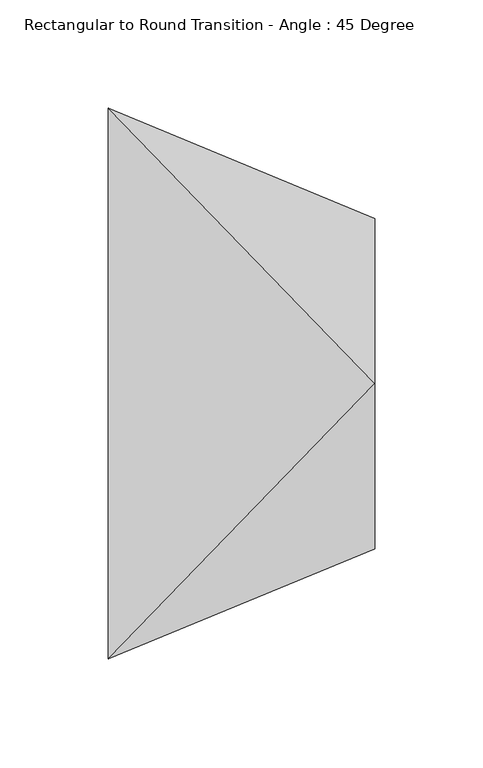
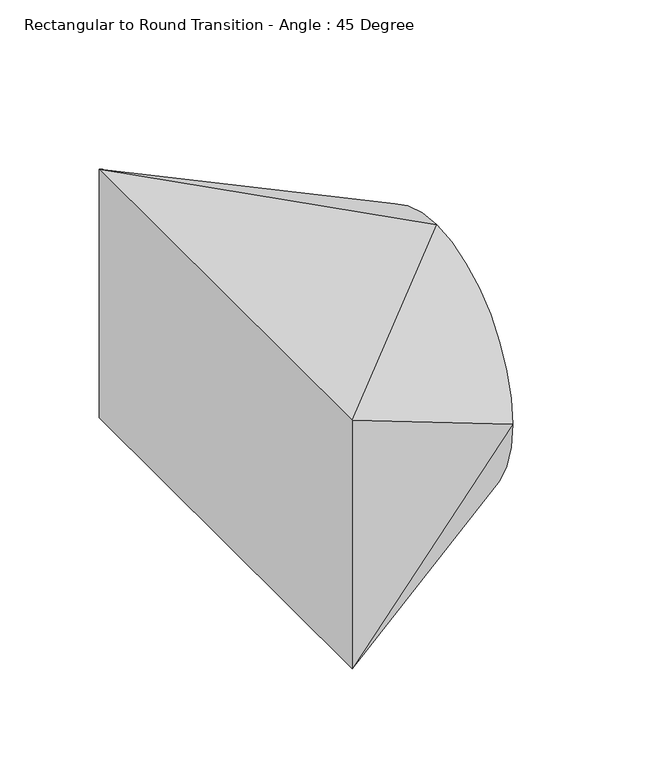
"""IFC4 building model written with IfcOpenShell, lengths in millimetres: duct fitting geometry, Rectangular to Round Transition - Angle : 45 Degree."""

from ifc_helpers import new_model, si_unit, frame, origin, place, context, project, spatial, circle_curve, source, transform, mapped, element, save
from ifc_brep_helpers import plane_surface, spline_surface, advanced_brep


def rectangular_to_round_transition_angle_45_degree_677d3a23(model_context):
    return source(origin(), model_context, "Body", "AdvancedBrep", [
        advanced_brep(
        [(122.642049, 0.0, 76.2), (122.642049, -76.2, 0.0), (122.642049, 0.0, -76.2), (122.642049, 76.2, 0.0), (0.0, -127.0, 76.2), (0.0, 127.0, 76.2), (0.0, 127.0, -76.2), (0.0, -127.0, -76.2)],
        [
            (0, 1, circle_curve(frame((122.642049, 0.0, 0.0), z_axis=(1.0, 0.0, 0.0), x_axis=(0.0, 1.0, 0.0)), 76.2)),
            (1, 2, circle_curve(frame((122.642049, 0.0, 0.0), z_axis=(1.0, 0.0, 0.0), x_axis=(0.0, 1.0, 0.0)), 76.2)),
            (2, 3, circle_curve(frame((122.642049, 0.0, 0.0), z_axis=(1.0, 0.0, 0.0), x_axis=(0.0, 1.0, 0.0)), 76.2)),
            (3, 0, circle_curve(frame((122.642049, 0.0, 0.0), z_axis=(1.0, 0.0, 0.0), x_axis=(0.0, 1.0, 0.0)), 76.2)),
            (4, 5),
            (5, 6),
            (6, 7),
            (7, 4),
            (0, 4),
            (4, 1),
            (7, 1),
            (7, 2),
            (6, 2),
            (6, 3),
            (5, 3),
            (5, 0),
        ],
        [
            plane_surface(frame((122.642049, 0.0, 0.0), z_axis=(1.0, 0.0, 0.0), x_axis=(0.0, 0.0, -1.0))),
            plane_surface(frame((0.0, 0.0, 0.0), z_axis=(-1.0, 0.0, 0.0), x_axis=(0.0, 0.0, -1.0))),
            spline_surface(2, 1, [[(0.0, -127.0, 76.2), (122.642049, 0.0, 76.2)], [(0.0, -127.0, 76.2), (122.642049, -76.2, 76.2)], [(0.0, -127.0, 76.2), (122.642049, -76.2, 0.0)]], [3, 3], [2, 2], [0.0, 1.0], [0.0, 1.0], weights=[[1.0, 1.0], [0.7071067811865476, 0.7071067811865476], [1.0, 1.0]]),
            plane_surface(frame((0.0, -127.0, 0.0), z_axis=(0.3826834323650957, -0.9238795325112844, 0.0), x_axis=(0.0, 0.0, -1.0))),
            spline_surface(2, 1, [[(0.0, -127.0, -76.2), (122.642049, -76.2, 0.0)], [(0.0, -127.0, -76.2), (122.642049, -76.2, -76.2)], [(0.0, -127.0, -76.2), (122.642049, 0.0, -76.2)]], [3, 3], [2, 2], [0.0, 1.0], [0.0, 1.0], weights=[[1.0, 1.0], [0.7071067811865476, 0.7071067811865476], [1.0, 1.0]]),
            plane_surface(frame((0.0, 0.0, -76.2), z_axis=(0.0, 0.0, -1.0), x_axis=(0.0, 1.0, 0.0))),
            spline_surface(2, 1, [[(0.0, 127.0, -76.2), (122.642049, 0.0, -76.2)], [(0.0, 127.0, -76.2), (122.642049, 76.2, -76.2)], [(0.0, 127.0, -76.2), (122.642049, 76.2, 0.0)]], [3, 3], [2, 2], [0.0, 1.0], [0.0, 1.0], weights=[[1.0, 1.0], [0.7071067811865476, 0.7071067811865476], [1.0, 1.0]]),
            plane_surface(frame((0.0, 127.0, 0.0), z_axis=(0.38268343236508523, 0.9238795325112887, 0.0), x_axis=(0.0, 0.0, 1.0))),
            spline_surface(2, 1, [[(0.0, 127.0, 76.2), (122.642049, 76.2, 0.0)], [(0.0, 127.0, 76.2), (122.642049, 76.2, 76.2)], [(0.0, 127.0, 76.2), (122.642049, 0.0, 76.2)]], [3, 3], [2, 2], [0.0, 1.0], [0.0, 1.0], weights=[[1.0, 1.0], [0.7071067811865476, 0.7071067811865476], [1.0, 1.0]]),
            plane_surface(frame((0.0, 0.0, 76.2), z_axis=(0.0, 0.0, 1.0), x_axis=(0.0, -1.0, 0.0))),
        ],
        [
            (0, [[1, 2, 3, 4]]),
            (1, [[5, 6, 7, 8]]),
            (2, [[-1, 9, 10]]),
            (3, [[-8, 11, -10]]),
            (4, [[-2, -11, 12]]),
            (5, [[-7, 13, -12]]),
            (6, [[-3, -13, 14]]),
            (7, [[-6, 15, -14]]),
            (8, [[-4, -15, 16]]),
            (9, [[-5, -9, -16]]),
        ],
    ),
    ])


if __name__ == "__main__":
    model = new_model("IFC4")
    model_context = context("Model", 3, world=origin())
    ifc_project = project(units=[si_unit("LENGTHUNIT", "METRE", prefix="MILLI")], contexts=[model_context])
    site = spatial("IfcSite", under=ifc_project)
    building = spatial("IfcBuilding", under=site)
    placement = place(None, origin())
    rectangular_to_round_transition_angle_45_degree_shape = rectangular_to_round_transition_angle_45_degree_677d3a23(model_context)
    element("IfcDuctFitting", 1, ObjectType="Rectangular to Round Transition - Angle : 45 Degree", at=placement, inside=building, context=model_context, shape_type="MappedRepresentation", body=[
        mapped(rectangular_to_round_transition_angle_45_degree_shape, transform((0.0, 0.0, 0.0), x_axis=(1.0, 0.0, 0.0), y_axis=(0.0, 1.0, 0.0), z_axis=(0.0, 0.0, 1.0))),
    ])
    save(model, "model.ifc")
